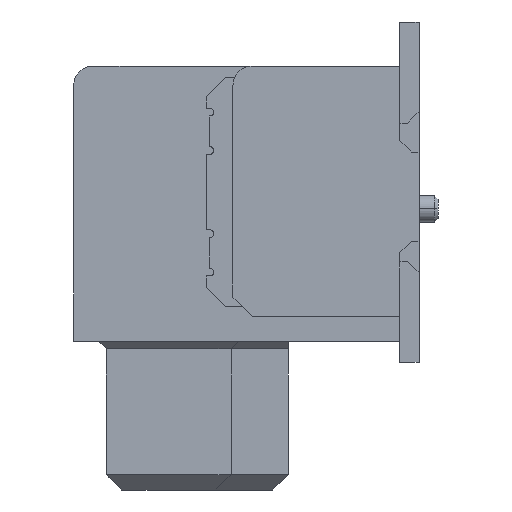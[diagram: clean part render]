
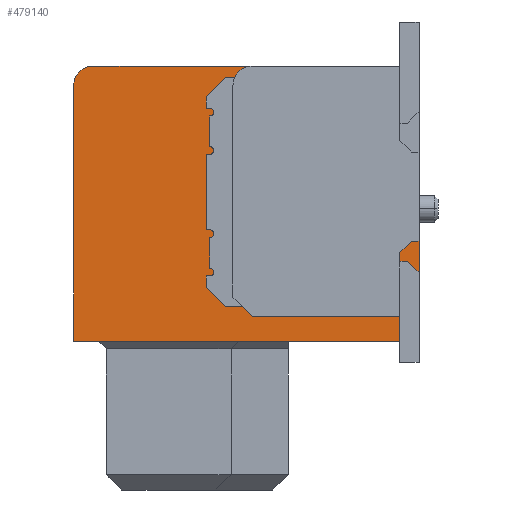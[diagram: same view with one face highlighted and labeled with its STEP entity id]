
A CAD part, left-side view. The second image highlights one B-rep face of the part: STEP entity #479140.
In plain terms, the highlighted planar face has unit normal (-1, 0, 0) as drawn and (1, 0, 0) by its records, which use the part's own axes.
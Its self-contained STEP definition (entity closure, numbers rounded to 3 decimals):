
#1040=CARTESIAN_POINT('',(15.92,9.,7.17));
#1050=VERTEX_POINT('',#1040);
#1080=CARTESIAN_POINT('',(15.92,0.,7.17));
#1090=DIRECTION('',(0.,1.,0.));
#1100=VECTOR('',#1090,1.);
#1110=LINE('',#1080,#1100);
#1120=CARTESIAN_POINT('',(15.92,0.,7.17));
#1130=VERTEX_POINT('',#1120);
#1140=EDGE_CURVE('',#1130,#1050,#1110,.T.);
#9710=CARTESIAN_POINT('',(15.92,4.85,0.5));
#9720=VERTEX_POINT('',#9710);
#9750=CARTESIAN_POINT('',(15.92,4.35,0.5));
#9760=DIRECTION('',(1.,0.,0.));
#9770=DIRECTION('',(0.,-1.,0.));
#9780=AXIS2_PLACEMENT_3D('',#9750,#9760,#9770);
#9790=CIRCLE('',#9780,0.5);
#9800=CARTESIAN_POINT('',(15.92,4.35,0.));
#9810=VERTEX_POINT('',#9800);
#9820=EDGE_CURVE('',#9810,#9720,#9790,.T.);
#12950=CARTESIAN_POINT('',(15.92,0.,0.));
#12960=DIRECTION('',(0.,1.,0.));
#12970=VECTOR('',#12960,1.);
#12980=LINE('',#12950,#12970);
#12990=CARTESIAN_POINT('',(15.92,8.5,0.));
#13000=VERTEX_POINT('',#12990);
#13010=EDGE_CURVE('',#9810,#13000,#12980,.T.);
#15830=CARTESIAN_POINT('',(15.92,8.5,0.5));
#15840=DIRECTION('',(-1.,0.,0.));
#15850=DIRECTION('',(0.,1.,0.));
#15860=AXIS2_PLACEMENT_3D('',#15830,#15840,#15850);
#15870=CIRCLE('',#15860,0.5);
#15880=CARTESIAN_POINT('',(15.92,9.,0.5));
#15890=VERTEX_POINT('',#15880);
#15900=EDGE_CURVE('',#15890,#13000,#15870,.T.);
#478060=CARTESIAN_POINT('',(15.92,0.,0.));
#478070=DIRECTION('',(0.,0.,1.));
#478080=VECTOR('',#478070,1.);
#478090=LINE('',#478060,#478080);
#478100=CARTESIAN_POINT('',(15.92,0.,4.57));
#478110=VERTEX_POINT('',#478100);
#478120=EDGE_CURVE('',#478110,#1130,#478090,.T.);
#478500=CARTESIAN_POINT('',(15.92,2.42,3.585));
#478510=DIRECTION('',(1.,-0.,0.));
#478520=DIRECTION('',(0.,0.,-1.));
#478530=AXIS2_PLACEMENT_3D('',#478500,#478510,#478520);
#478540=PLANE('',#478530);
#478550=ORIENTED_EDGE('',*,*,#1140,.F.);
#478560=CARTESIAN_POINT('',(15.92,9.,0.));
#478570=DIRECTION('',(0.,0.,-1.));
#478580=VECTOR('',#478570,1.);
#478590=LINE('',#478560,#478580);
#478600=EDGE_CURVE('',#1050,#15890,#478590,.T.);
#478610=ORIENTED_EDGE('',*,*,#478600,.F.);
#478620=ORIENTED_EDGE('',*,*,#15900,.F.);
#478630=ORIENTED_EDGE('',*,*,#13010,.T.);
#478640=ORIENTED_EDGE('',*,*,#9820,.F.);
#478650=CARTESIAN_POINT('',(15.92,4.85,0.));
#478660=DIRECTION('',(0.,0.,1.));
#478670=VECTOR('',#478660,1.);
#478680=LINE('',#478650,#478670);
#478690=CARTESIAN_POINT('',(15.92,4.85,6.02));
#478700=VERTEX_POINT('',#478690);
#478710=EDGE_CURVE('',#9720,#478700,#478680,.T.);
#478720=ORIENTED_EDGE('',*,*,#478710,.F.);
#478730=CARTESIAN_POINT('',(15.92,10.87,0.));
#478740=DIRECTION('',(0.,-0.707,0.707));
#478750=VECTOR('',#478740,1.);
#478760=LINE('',#478730,#478750);
#478770=CARTESIAN_POINT('',(15.92,4.35,6.52));
#478780=VERTEX_POINT('',#478770);
#478790=EDGE_CURVE('',#478700,#478780,#478760,.T.);
#478800=ORIENTED_EDGE('',*,*,#478790,.F.);
#478810=CARTESIAN_POINT('',(15.92,0.,6.52));
#478820=DIRECTION('',(0.,1.,0.));
#478830=VECTOR('',#478820,1.);
#478840=LINE('',#478810,#478830);
#478850=CARTESIAN_POINT('',(15.92,0.5,6.52));
#478860=VERTEX_POINT('',#478850);
#478870=EDGE_CURVE('',#478860,#478780,#478840,.T.);
#478880=ORIENTED_EDGE('',*,*,#478870,.T.);
#478890=CARTESIAN_POINT('',(15.92,0.5,4.57));
#478900=DIRECTION('',(0.,0.,1.));
#478910=VECTOR('',#478900,1.);
#478920=LINE('',#478890,#478910);
#478930=CARTESIAN_POINT('',(15.92,0.5,4.87));
#478940=VERTEX_POINT('',#478930);
#478950=EDGE_CURVE('',#478940,#478860,#478920,.T.);
#478960=ORIENTED_EDGE('',*,*,#478950,.T.);
#478970=CARTESIAN_POINT('',(15.92,0.,4.37));
#478980=DIRECTION('',(0.,0.707,0.707));
#478990=VECTOR('',#478980,1.);
#479000=LINE('',#478970,#478990);
#479010=CARTESIAN_POINT('',(15.92,0.2,4.57));
#479020=VERTEX_POINT('',#479010);
#479030=EDGE_CURVE('',#479020,#478940,#479000,.T.);
#479040=ORIENTED_EDGE('',*,*,#479030,.T.);
#479050=CARTESIAN_POINT('',(15.92,0.,4.57));
#479060=DIRECTION('',(0.,1.,0.));
#479070=VECTOR('',#479060,1.);
#479080=LINE('',#479050,#479070);
#479090=EDGE_CURVE('',#478110,#479020,#479080,.T.);
#479100=ORIENTED_EDGE('',*,*,#479090,.T.);
#479110=ORIENTED_EDGE('',*,*,#478120,.F.);
#479120=EDGE_LOOP('',(#479110,#479100,#479040,#478960,#478880,#478800,
#478720,#478640,#478630,#478620,#478610,#478550));
#479130=FACE_OUTER_BOUND('',#479120,.T.);
#479140=ADVANCED_FACE('',(#479130),#478540,.T.);
